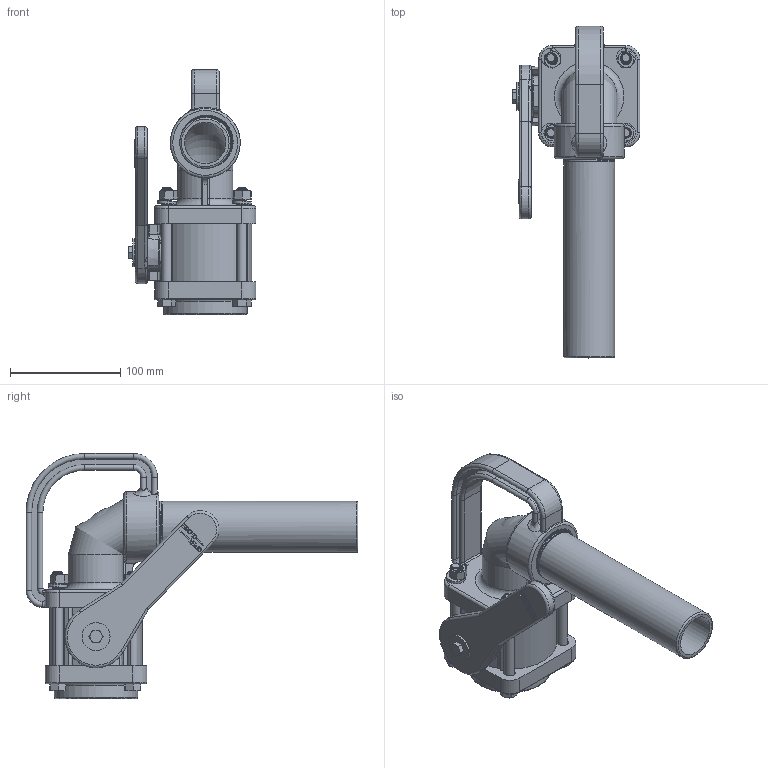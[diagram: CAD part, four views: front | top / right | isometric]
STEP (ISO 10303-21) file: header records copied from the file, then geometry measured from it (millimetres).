
FILE_DESCRIPTION(/* description */ ('Alibre Inc.'),/* implementation_level */ '2;1');
FILE_NAME(/* name */ 'export0',/* time_stamp */ '2017-07-13T14:48:03-04:00',/* author */ (''),/* organization */ (''),/* preprocessor_version */ 'ST-DEVELOPER v14',/* originating_system */ 'Alibre',/* authorisation */ '');
FILE_SCHEMA (('CONFIG_CONTROL_DESIGN'));
Length unit declared in the file: centimetre
Products named in the file (16): ID_1; ID_2; ID_3; ID_4; ID_5; ID_6; ID_7; ID_8; ID_9; ID_10; ID_11; ID_12; ID_13; ID_14
Bounding box: 116 x 301.06 x 222.25 mm (x, y, z)
Volume: 842031.2 mm3; surface area: 287730.6 mm2
Topology: 26 solids, 26 shells, 1126 faces, 2884 edges, 1838 vertices
Faces by surface type: cylinder 407, plane 303, cone 184, bspline 158, torus 67, sphere 7
Full cylindrical faces by diameter (mm): 4.826 x2, 4.978 x1, 7.112 x1, 9.652 x8, 19.05 x3, 21.59 x2, 22.352 x1, 24.892 x1, 25.4 x3, 31.496 x2, 32.258 x1, 37.592 x1, 38.1 x2, 38.354 x1, 39.624 x3, 46.228 x11, 61.468 x1, 63.5 x3, 65.278 x1, 71.12 x2, 71.628 x2, 75.946 x1
Entity records: 96220 total; most frequent: CARTESIAN_POINT 77448, ORIENTED_EDGE 3916, DIRECTION 2739, EDGE_CURVE 1958, VERTEX_POINT 1282, AXIS2_PLACEMENT_3D 1132, FACE_BOUND 914, EDGE_LOOP 913
